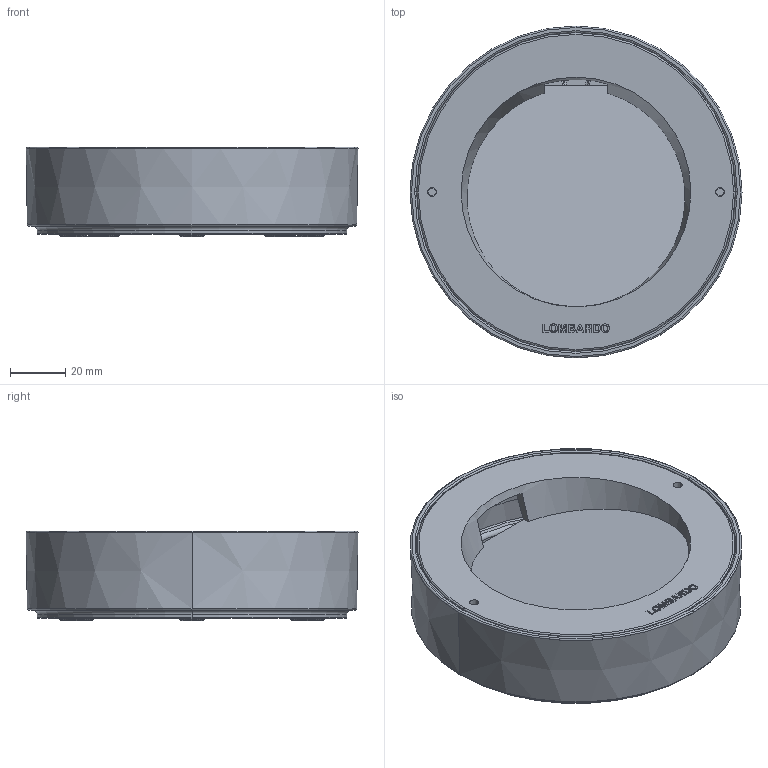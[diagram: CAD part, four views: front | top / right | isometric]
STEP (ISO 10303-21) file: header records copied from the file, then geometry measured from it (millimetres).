
FILE_DESCRIPTION((''),'2;1');
FILE_NAME('KOI-TONDO_SW0001','2025-06-26T09:04:12',('Piccioli'),(''),'CREO PARAMETRIC BY PTC INC, 2025010','CREO PARAMETRIC BY PTC INC, 2025010','');
FILE_SCHEMA(('CONFIG_CONTROL_DESIGN'));
Length unit declared in the file: millimetre
Products named in the file (1): KOI-TONDO_SW0001
Bounding box: 119.98 x 119.98 x 32.3 mm (x, y, z)
Surface area: 50774.8 mm2 (no closed solid volume)
Topology: 0 solids, 28 shells, 377 faces, 1367 edges, 998 vertices
Faces by surface type: plane 106, torus 98, cone 69, cylinder 69, bspline 30, sphere 4, extrusion 1
Entity records: 21328 total; most frequent: CARTESIAN_POINT 10381, DIRECTION 2211, ORIENTED_EDGE 2050, EDGE_CURVE 1367, VERTEX_POINT 998, AXIS2_PLACEMENT_3D 867, CIRCLE 521, VECTOR 477
